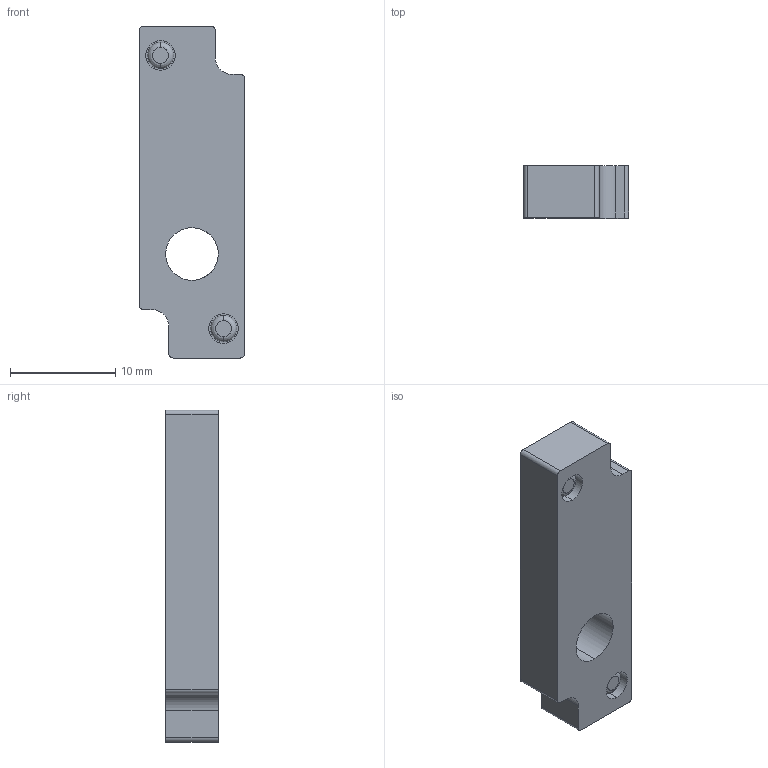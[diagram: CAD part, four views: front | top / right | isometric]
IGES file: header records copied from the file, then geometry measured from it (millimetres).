
Start section: ------------------------------------------------------------------------
Global section: file name: D:\ICADMX\tmp\trans3d_spg\CVICAD02.10028.F10_Port_VMB_8641.igs; native system: spGate; preprocessor: ver12.6.6; author: Unknown; organization: Unknown; date: 200901.142446; units: millimetre
Bounding box: 10 x 5 x 31.6 mm (x, y, z)
Volume: 1349.3 mm3; surface area: 1047.6 mm2
Topology: 1 solids, 1 shells, 32 faces, 79 edges, 53 vertices
Faces by surface type: bspline 32
